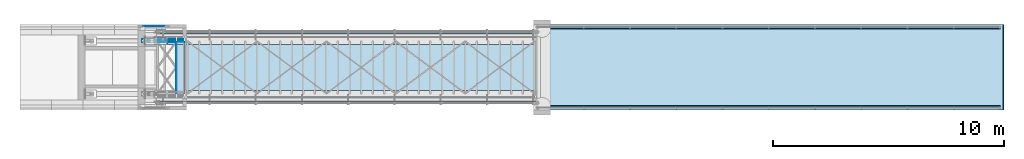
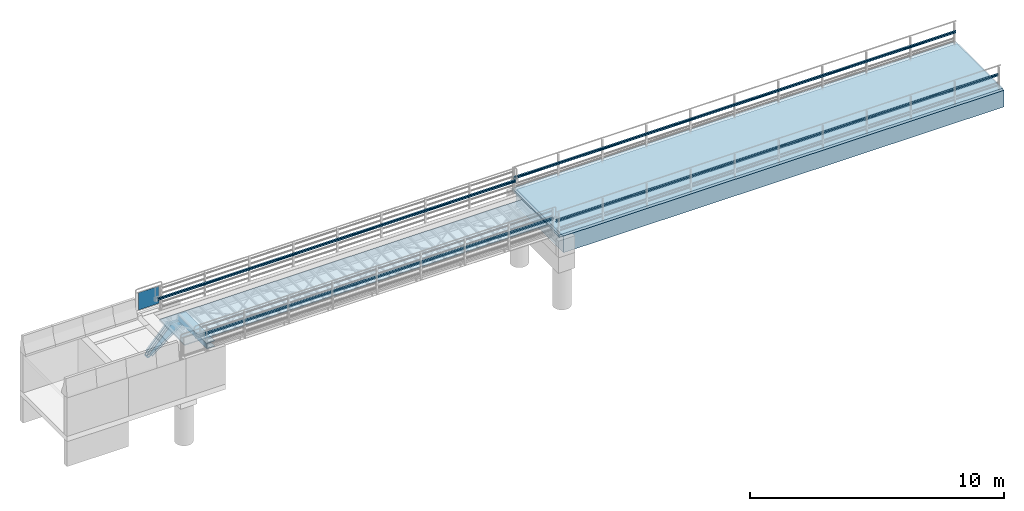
# One storey, part 26 of 31: 13 plates, 2 slabs.
"""IFC2X3 building model written with IfcOpenShell, lengths in millimetres."""

from ifc_helpers import new_model, si_unit, frame, origin_with_axes, place, context, subcontext, project, spatial, faceted_brep, material, type_object, element, save


model = new_model("IFC2X3")

# Units and contexts
model_context = context("Model", 3, precision=1e-05, world=origin_with_axes())
body_context = subcontext(model_context, "Body", "Model", "MODEL_VIEW")
ifc_project = project(units=[si_unit("LENGTHUNIT", "METRE", prefix="MILLI"), si_unit("AREAUNIT", "SQUARE_METRE"), si_unit("VOLUMEUNIT", "CUBIC_METRE"), si_unit("MASSUNIT", "GRAM", prefix="KILO"), si_unit("TIMEUNIT", "SECOND"), si_unit("PLANEANGLEUNIT", "RADIAN"), si_unit("SOLIDANGLEUNIT", "STERADIAN"), si_unit("THERMODYNAMICTEMPERATUREUNIT", "DEGREE_CELSIUS"), si_unit("LUMINOUSINTENSITYUNIT", "LUMEN")], contexts=[model_context])

# Site, building, storey
site_placement = place(None, origin_with_axes())
site = spatial("IfcSite", under=ifc_project, at=site_placement, Name="Undefined", CompositionType="ELEMENT")
building_placement = place(site_placement, origin_with_axes())
building = spatial("IfcBuilding", under=site, at=building_placement, Name="Undefined", CompositionType="ELEMENT")
storey_placement = place(building_placement, origin_with_axes())
storey = spatial("IfcBuildingStorey", under=building, at=storey_placement, Name="Undefined", CompositionType="ELEMENT", Elevation=0.0)

# Plates
ifc_material_1 = material(Name="STEEL/S355J2+N")
plate_type_1 = type_object("IfcPlateType", Name="PL20*300", PredefinedType="NOTDEFINED")
plate_1_placement = place(storey_placement, frame((3575.39569109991, 2149.99966072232, -427.071099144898), z_axis=(2.50193930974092e-05, 0.999999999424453, -2.29155708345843e-05), x_axis=(-0.675422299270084, 0.0, -0.737431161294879)))
element("IfcPlate", 1, at=plate_1_placement, inside=storey, type_object=plate_type_1, material=ifc_material_1, Name="PLATE", context=body_context, shape_type="Brep", body=[
    faceted_brep([(1469.98602404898, -10.0000000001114, 299.999999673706), (1469.99999999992, -10.0000000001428, -1.17324816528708e-10), (1469.99999999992, 9.99999999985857, -1.18234311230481e-10), (1469.98602404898, 9.9999999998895, 299.999999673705), (26.9203526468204, 10.0000000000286, 300.005569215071), (8.48209986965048, -9.9999999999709, 300.005640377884), (8.49148352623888, -10.0000000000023, -4.54747350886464e-13), (26.9297363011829, 9.99999999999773, -2.72848410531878e-12)], [[[0, 1, 2, 3]], [[0, 3, 4, 5]], [[1, 0, 5, 6]], [[2, 1, 6, 7]], [[3, 2, 7, 4]], [[6, 5, 4, 7]]]),
])
plate_2_placement = place(storey_placement, frame((4313.94299101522, 2150.0, -432.043075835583), z_axis=(0.0, 1.0, 0.0), x_axis=(-0.795692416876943, 0.0, -0.605700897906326)))
element("IfcPlate", 2, at=plate_2_placement, inside=storey, type_object=plate_type_1, material=ifc_material_1, Name="PLATE", context=body_context, shape_type="Brep", body=[
    faceted_brep([(2024.92011222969, -10.0000000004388, 300.0), (2024.9201122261, -10.0000000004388, 0.0), (2024.92011222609, 9.99999999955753, 0.0), (2024.92011222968, 9.99999999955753, 300.0), (26.2734451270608, 9.99999999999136, 300.0), (5.00222085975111e-11, -9.99999999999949, 299.999999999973), (-9.09494701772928e-13, -9.99999999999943, 0.0), (26.2734451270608, 9.99999999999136, 0.0)], [[[0, 1, 2, 3]], [[0, 3, 4, 5]], [[1, 0, 5, 6]], [[2, 1, 6, 7]], [[3, 2, 7, 4]], [[6, 5, 4, 7]]]),
])
plate_type_2 = type_object("IfcPlateType", Name="PL1*830", PredefinedType="NOTDEFINED")
plate_3_placement = place(storey_placement, frame((2537.745, 2924.5, 155.0), z_axis=(0.0, 0.0, 1.0), x_axis=(1.0, 0.0, 0.0)))
element("IfcPlate", 3, at=plate_3_placement, inside=storey, type_object=plate_type_2, material=ifc_material_1, Name="LKBRØYTETETTPANEL", context=body_context, shape_type="Brep", body=[
    faceted_brep([(0.0, -0.5, 0.0), (0.0, -0.5, 830.0), (0.0, 0.5, 830.0), (0.0, 0.5, 0.0), (920.0, -0.5, 830.0), (920.0, 0.5, 830.0), (920.0, -0.5, 0.0), (920.0, 0.5, 0.0)], [[[0, 1, 2, 3]], [[1, 4, 5, 2]], [[4, 6, 7, 5]], [[6, 0, 3, 7]], [[5, 7, 3, 2]], [[6, 4, 1, 0]]]),
])
plate_type_3 = type_object("IfcPlateType", Name="PL18*466", PredefinedType="NOTDEFINED")
plate_4_placement = place(storey_placement, frame((2577.43360778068, 2243.0, -1766.484967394), z_axis=(-0.605700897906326, 0.0, 0.795692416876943), x_axis=(0.795692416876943, 0.0, 0.605700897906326)))
element("IfcPlate", 4, at=plate_4_placement, inside=storey, type_object=plate_type_3, material=ifc_material_1, Name="PLATE", context=body_context, shape_type="Brep", body=[
    faceted_brep([(163.504970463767, -9.0, 83.3247599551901), (163.504970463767, 9.0, 83.3247599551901), (154.611295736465, 9.0, 66.7931044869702), (154.611295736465, -9.0, 66.7931044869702), (141.044345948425, 9.0, 53.8188624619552), (141.044345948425, -9.0, 53.8188624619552), (124.132148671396, 9.0, 45.6720430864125), (124.132148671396, -9.0, 45.6720430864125), (105.530187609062, 9.0, 43.150113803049), (105.530187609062, -9.0, 43.150113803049), (87.0593523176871, 9.0, 46.4999386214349), (87.0593523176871, -9.0, 46.4999386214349), (70.5276968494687, 9.0, 55.3936133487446), (70.5276968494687, -9.0, 55.3936133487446), (57.5534548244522, 9.0, 68.960563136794), (57.5534548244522, -9.0, 68.960563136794), (49.4066354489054, 9.0, 85.8727604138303), (49.4066354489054, -9.0, 85.8727604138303), (46.8847061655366, 9.0, 104.47472147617), (46.8847061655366, -9.0, 104.47472147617), (50.2345309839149, 9.0, 122.945556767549), (50.2345309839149, -9.0, 122.945556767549), (59.1282057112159, 9.0, 139.477212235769), (59.1282057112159, -9.0, 139.477212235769), (72.6951554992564, 9.0, 152.451454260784), (72.6951554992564, -9.0, 152.451454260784), (89.6073527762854, 9.0, 160.598273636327), (89.6073527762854, -9.0, 160.598273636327), (108.20931383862, 9.0, 163.12020291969), (108.20931383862, -9.0, 163.12020291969), (126.680149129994, 9.0, 159.770378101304), (126.680149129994, -9.0, 159.770378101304), (143.211804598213, 9.0, 150.876703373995), (143.211804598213, -9.0, 150.876703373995), (156.186046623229, 9.0, 137.309753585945), (156.186046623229, -9.0, 137.309753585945), (164.332865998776, 9.0, 120.397556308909), (164.332865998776, -9.0, 120.397556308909), (166.854795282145, 9.0, 101.795595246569), (166.854795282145, -9.0, 101.795595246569), (-0.0275781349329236, -9.0, 48.08983912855), (19.9856895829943, -9.0, 22.5915622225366), (47.7342715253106, -9.0, 5.83718338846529), (79.6187552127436, -9.0, -1.00044417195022e-11), (2189.99999999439, -9.0, -2.72848410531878e-10), (1577.31683933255, -9.0, 466.389691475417), (61.8801634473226, -9.0, 192.804490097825), (30.275079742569, -9.0, 180.621837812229), (5.41136707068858, -9.0, 157.619791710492), (-9.18923430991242, -9.0, 127.056402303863), (-11.4586693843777, -9.0, 93.2607221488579), (-9.70950687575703, -9.0, 79.0245003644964), (-9.70950687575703, 9.0, 79.0245003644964), (-0.0275781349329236, 9.0, 48.08983912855), (19.9856895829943, 9.0, 22.5915622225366), (47.7342715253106, 9.0, 5.83718338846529), (79.6187552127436, 9.0, -1.00044417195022e-11), (2189.99999999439, 9.0, -2.72848410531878e-10), (1577.31683933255, 9.0, 466.389691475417), (61.8801634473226, 9.0, 192.804490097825), (30.275079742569, 9.0, 180.621837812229), (5.41136707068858, 9.0, 157.619791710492), (-9.18923430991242, 9.0, 127.056402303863), (-11.4586693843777, 9.0, 93.2607221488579)], [[[0, 1, 2, 3]], [[3, 2, 4, 5]], [[5, 4, 6, 7]], [[7, 6, 8, 9]], [[9, 8, 10, 11]], [[11, 10, 12, 13]], [[13, 12, 14, 15]], [[15, 14, 16, 17]], [[17, 16, 18, 19]], [[19, 18, 20, 21]], [[21, 20, 22, 23]], [[23, 22, 24, 25]], [[25, 24, 26, 27]], [[27, 26, 28, 29]], [[29, 28, 30, 31]], [[31, 30, 32, 33]], [[33, 32, 34, 35]], [[35, 34, 36, 37]], [[37, 36, 38, 39]], [[39, 38, 1, 0]], [[40, 41, 42, 43, 44, 45, 46, 47, 48, 49, 50, 51], [3, 5, 7, 9, 11, 13, 15, 17, 19, 21, 23, 25, 27, 29, 31, 33, 35, 37, 39, 0]], [[40, 51, 52, 53]], [[41, 40, 53, 54]], [[42, 41, 54, 55]], [[43, 42, 55, 56]], [[44, 43, 56, 57]], [[45, 44, 57, 58]], [[46, 45, 58, 59]], [[47, 46, 59, 60]], [[48, 47, 60, 61]], [[49, 48, 61, 62]], [[50, 49, 62, 63]], [[51, 50, 63, 52]], [[62, 61, 60, 59, 58, 57, 56, 55, 54, 53, 52, 63], [34, 32, 30, 28, 26, 24, 22, 20, 18, 16, 14, 12, 10, 8, 6, 4, 2, 1, 38, 36]]]),
])
plate_5_placement = place(storey_placement, frame((2577.43360778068, 2357.0, -1766.484967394), z_axis=(-0.605700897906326, 0.0, 0.795692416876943), x_axis=(0.795692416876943, 0.0, 0.605700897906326)))
element("IfcPlate", 5, at=plate_5_placement, inside=storey, type_object=plate_type_3, material=ifc_material_1, Name="PLATE", context=body_context, shape_type="Brep", body=[
    faceted_brep([(163.504970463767, -9.0, 83.3247599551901), (163.504970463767, 9.0, 83.3247599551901), (154.611295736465, 9.0, 66.7931044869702), (154.611295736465, -9.0, 66.7931044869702), (141.044345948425, 9.0, 53.8188624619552), (141.044345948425, -9.0, 53.8188624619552), (124.132148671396, 9.0, 45.6720430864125), (124.132148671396, -9.0, 45.6720430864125), (105.530187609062, 9.0, 43.150113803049), (105.530187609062, -9.0, 43.150113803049), (87.0593523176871, 9.0, 46.4999386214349), (87.0593523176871, -9.0, 46.4999386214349), (70.5276968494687, 9.0, 55.3936133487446), (70.5276968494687, -9.0, 55.3936133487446), (57.5534548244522, 9.0, 68.960563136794), (57.5534548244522, -9.0, 68.960563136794), (49.4066354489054, 9.0, 85.8727604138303), (49.4066354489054, -9.0, 85.8727604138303), (46.8847061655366, 9.0, 104.47472147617), (46.8847061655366, -9.0, 104.47472147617), (50.2345309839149, 9.0, 122.945556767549), (50.2345309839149, -9.0, 122.945556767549), (59.1282057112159, 9.0, 139.477212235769), (59.1282057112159, -9.0, 139.477212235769), (72.6951554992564, 9.0, 152.451454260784), (72.6951554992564, -9.0, 152.451454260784), (89.6073527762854, 9.0, 160.598273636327), (89.6073527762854, -9.0, 160.598273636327), (108.20931383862, 9.0, 163.12020291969), (108.20931383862, -9.0, 163.12020291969), (126.680149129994, 9.0, 159.770378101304), (126.680149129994, -9.0, 159.770378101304), (143.211804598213, 9.0, 150.876703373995), (143.211804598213, -9.0, 150.876703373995), (156.186046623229, 9.0, 137.309753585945), (156.186046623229, -9.0, 137.309753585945), (164.332865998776, 9.0, 120.397556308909), (164.332865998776, -9.0, 120.397556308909), (166.854795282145, 9.0, 101.795595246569), (166.854795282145, -9.0, 101.795595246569), (-0.0275781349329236, -9.0, 48.08983912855), (19.9856895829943, -9.0, 22.5915622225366), (47.7342715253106, -9.0, 5.83718338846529), (79.6187552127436, -9.0, -1.00044417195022e-11), (2189.99999999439, -9.0, -2.72848410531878e-10), (1577.31683933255, -9.0, 466.389691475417), (61.8801634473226, -9.0, 192.804490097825), (30.275079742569, -9.0, 180.621837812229), (5.41136707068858, -9.0, 157.619791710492), (-9.18923430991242, -9.0, 127.056402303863), (-11.4586693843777, -9.0, 93.2607221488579), (-9.70950687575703, -9.0, 79.0245003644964), (-9.70950687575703, 9.0, 79.0245003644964), (-0.0275781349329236, 9.0, 48.08983912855), (19.9856895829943, 9.0, 22.5915622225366), (47.7342715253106, 9.0, 5.83718338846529), (79.6187552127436, 9.0, -1.00044417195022e-11), (2189.99999999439, 9.0, -2.72848410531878e-10), (1577.31683933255, 9.0, 466.389691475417), (61.8801634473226, 9.0, 192.804490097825), (30.275079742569, 9.0, 180.621837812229), (5.41136707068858, 9.0, 157.619791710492), (-9.18923430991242, 9.0, 127.056402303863), (-11.4586693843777, 9.0, 93.2607221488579)], [[[0, 1, 2, 3]], [[3, 2, 4, 5]], [[5, 4, 6, 7]], [[7, 6, 8, 9]], [[9, 8, 10, 11]], [[11, 10, 12, 13]], [[13, 12, 14, 15]], [[15, 14, 16, 17]], [[17, 16, 18, 19]], [[19, 18, 20, 21]], [[21, 20, 22, 23]], [[23, 22, 24, 25]], [[25, 24, 26, 27]], [[27, 26, 28, 29]], [[29, 28, 30, 31]], [[31, 30, 32, 33]], [[33, 32, 34, 35]], [[35, 34, 36, 37]], [[37, 36, 38, 39]], [[39, 38, 1, 0]], [[40, 41, 42, 43, 44, 45, 46, 47, 48, 49, 50, 51], [3, 5, 7, 9, 11, 13, 15, 17, 19, 21, 23, 25, 27, 29, 31, 33, 35, 37, 39, 0]], [[40, 51, 52, 53]], [[41, 40, 53, 54]], [[42, 41, 54, 55]], [[43, 42, 55, 56]], [[44, 43, 56, 57]], [[45, 44, 57, 58]], [[46, 45, 58, 59]], [[47, 46, 59, 60]], [[48, 47, 60, 61]], [[49, 48, 61, 62]], [[50, 49, 62, 63]], [[51, 50, 63, 52]], [[62, 61, 60, 59, 58, 57, 56, 55, 54, 53, 52, 63], [34, 32, 30, 28, 26, 24, 22, 20, 18, 16, 14, 12, 10, 8, 6, 4, 2, 1, 38, 36]]]),
])
plate_type_4 = type_object("IfcPlateType", Name="PL20100*131", PredefinedType="NOTDEFINED")
plate_6_placement = place(storey_placement, frame((29550.0, 2849.9965929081, 525.516093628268), z_axis=(0.0, -0.529589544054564, -0.848254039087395), x_axis=(0.0, -0.848254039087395, 0.529589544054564)))
element("IfcPlate", 6, at=plate_6_placement, inside=storey, type_object=plate_type_4, material=ifc_material_1, Name="BB-FØRINGSSKINNE", context=body_context, shape_type="Brep", body=[
    faceted_brep([(0.0, -10050.0, -2.27373675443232e-13), (-0.0621845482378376, -10050.0, 2.93198452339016), (-0.0621845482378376, 10050.0, 2.93198452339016), (0.0, 10050.0, -2.27373675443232e-13), (46.388300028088, -10050.0, 2.93162020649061), (46.388300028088, 10050.0, 2.93162020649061), (51.3752520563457, -10050.0, 0.681159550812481), (51.3752520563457, 10050.0, 0.681159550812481), (55.1048153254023, -10050.0, -3.29743898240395), (55.1048153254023, 10050.0, -3.29743898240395), (57.0344550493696, -10050.0, -8.36441512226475), (57.0344550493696, 10050.0, -8.36441512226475), (56.8741730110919, -10050.0, -13.8638097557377), (56.8741730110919, 10050.0, -13.8638097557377), (36.9574907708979, -10050.0, -53.5307787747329), (36.9574907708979, 10050.0, -53.5307787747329), (47.5492816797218, -10050.0, -70.4958595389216), (47.5492816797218, 10050.0, -70.4958595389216), (91.9330008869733, -10050.0, -70.0182271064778), (91.9330008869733, 10050.0, -70.0182271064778), (96.9061744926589, -10050.0, -72.2655011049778), (96.9061744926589, 10050.0, -72.2655011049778), (100.649516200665, -10050.0, -76.2472863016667), (100.649516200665, 10050.0, -76.2472863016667), (102.59077956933, -10050.0, -81.3895279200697), (102.59077956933, 10050.0, -81.3895279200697), (102.39661289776, -10050.0, -86.8157663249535), (102.39661289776, 10050.0, -86.8157663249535), (82.024194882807, -10050.0, -128.547391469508), (82.024194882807, 10050.0, -128.547391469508), (79.491390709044, -10050.0, -127.322931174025), (79.491390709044, 10050.0, -127.322931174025), (99.4978454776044, -10050.0, -86.1380883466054), (99.4978454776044, 10050.0, -86.1380883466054), (99.6246827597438, -10050.0, -81.8502552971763), (99.6246827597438, 10050.0, -81.8502552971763), (98.1047540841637, -10050.0, -77.8360549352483), (98.1047540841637, 10050.0, -77.8360549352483), (95.1655387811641, -10050.0, -74.7079562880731), (95.1655387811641, 10050.0, -74.7079562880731), (91.2574321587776, -10050.0, -72.9392555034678), (91.2574321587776, 10050.0, -72.9392555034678), (45.8412710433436, -10050.0, -73.4248695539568), (45.8412710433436, 10050.0, -73.4248695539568), (33.5759771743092, -10050.0, -53.7793060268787), (33.5759771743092, 10050.0, -53.7793060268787), (53.9531446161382, -10050.0, -13.1882410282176), (53.9531446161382, 10050.0, -13.1882410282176), (54.0725767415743, -10050.0, -8.86966445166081), (54.0725767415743, 10050.0, -8.86966445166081), (52.5600532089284, -10050.0, -4.88620761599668), (52.5600532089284, 10050.0, -4.88620761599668), (49.6208379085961, -10050.0, -1.75810898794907), (49.6208379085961, 10050.0, -1.75810898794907), (45.6957661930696, -10050.0, -9.09494701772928e-13), (45.6957661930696, 10050.0, -9.09494701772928e-13)], [[[0, 1, 2, 3]], [[1, 4, 5, 2]], [[4, 6, 7, 5]], [[6, 8, 9, 7]], [[8, 10, 11, 9]], [[10, 12, 13, 11]], [[12, 14, 15, 13]], [[14, 16, 17, 15]], [[16, 18, 19, 17]], [[18, 20, 21, 19]], [[20, 22, 23, 21]], [[22, 24, 25, 23]], [[24, 26, 27, 25]], [[26, 28, 29, 27]], [[28, 30, 31, 29]], [[30, 32, 33, 31]], [[32, 34, 35, 33]], [[34, 36, 37, 35]], [[36, 38, 39, 37]], [[38, 40, 41, 39]], [[40, 42, 43, 41]], [[42, 44, 45, 43]], [[44, 46, 47, 45]], [[46, 48, 49, 47]], [[48, 50, 51, 49]], [[50, 52, 53, 51]], [[52, 54, 55, 53]], [[54, 0, 3, 55]], [[5, 7, 9, 11, 13, 15, 17, 19, 21, 23, 25, 27, 29, 31, 33, 35, 37, 39, 41, 43, 45, 47, 49, 51, 53, 55, 3, 2]], [[54, 52, 50, 48, 46, 44, 42, 40, 38, 36, 34, 32, 30, 28, 26, 24, 22, 20, 18, 16, 14, 12, 10, 8, 6, 4, 1, 0]]]),
])
plate_7_placement = place(storey_placement, frame((29550.0, -549.996592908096, 525.516093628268), z_axis=(0.0, 0.529589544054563, -0.848254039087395), x_axis=(0.0, 0.848254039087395, 0.529589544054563)))
element("IfcPlate", 7, at=plate_7_placement, inside=storey, type_object=plate_type_4, material=ifc_material_1, Name="BB-FØRINGSSKINNE", context=body_context, shape_type="Brep", body=[
    faceted_brep([(0.0, -10050.0, -2.27373675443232e-13), (-0.0621845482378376, -10050.0, 2.93198452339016), (-0.0621845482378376, 10050.0, 2.93198452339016), (0.0, 10050.0, -2.27373675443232e-13), (46.388300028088, -10050.0, 2.93162020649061), (46.388300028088, 10050.0, 2.93162020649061), (51.3752520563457, -10050.0, 0.681159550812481), (51.3752520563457, 10050.0, 0.681159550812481), (55.1048153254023, -10050.0, -3.29743898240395), (55.1048153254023, 10050.0, -3.29743898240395), (57.0344550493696, -10050.0, -8.36441512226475), (57.0344550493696, 10050.0, -8.36441512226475), (56.8741730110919, -10050.0, -13.8638097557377), (56.8741730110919, 10050.0, -13.8638097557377), (36.9574907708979, -10050.0, -53.5307787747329), (36.9574907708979, 10050.0, -53.5307787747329), (47.5492816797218, -10050.0, -70.4958595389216), (47.5492816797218, 10050.0, -70.4958595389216), (91.9330008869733, -10050.0, -70.0182271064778), (91.9330008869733, 10050.0, -70.0182271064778), (96.9061744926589, -10050.0, -72.2655011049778), (96.9061744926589, 10050.0, -72.2655011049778), (100.649516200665, -10050.0, -76.2472863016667), (100.649516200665, 10050.0, -76.2472863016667), (102.59077956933, -10050.0, -81.3895279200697), (102.59077956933, 10050.0, -81.3895279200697), (102.39661289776, -10050.0, -86.8157663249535), (102.39661289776, 10050.0, -86.8157663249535), (82.024194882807, -10050.0, -128.547391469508), (82.024194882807, 10050.0, -128.547391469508), (79.491390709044, -10050.0, -127.322931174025), (79.491390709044, 10050.0, -127.322931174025), (99.4978454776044, -10050.0, -86.1380883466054), (99.4978454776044, 10050.0, -86.1380883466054), (99.6246827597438, -10050.0, -81.8502552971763), (99.6246827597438, 10050.0, -81.8502552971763), (98.1047540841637, -10050.0, -77.8360549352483), (98.1047540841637, 10050.0, -77.8360549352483), (95.1655387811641, -10050.0, -74.7079562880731), (95.1655387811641, 10050.0, -74.7079562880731), (91.2574321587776, -10050.0, -72.9392555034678), (91.2574321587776, 10050.0, -72.9392555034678), (45.8412710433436, -10050.0, -73.4248695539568), (45.8412710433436, 10050.0, -73.4248695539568), (33.5759771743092, -10050.0, -53.7793060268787), (33.5759771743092, 10050.0, -53.7793060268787), (53.9531446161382, -10050.0, -13.1882410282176), (53.9531446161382, 10050.0, -13.1882410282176), (54.0725767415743, -10050.0, -8.86966445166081), (54.0725767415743, 10050.0, -8.86966445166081), (52.5600532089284, -10050.0, -4.88620761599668), (52.5600532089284, 10050.0, -4.88620761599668), (49.6208379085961, -10050.0, -1.75810898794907), (49.6208379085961, 10050.0, -1.75810898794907), (45.6957661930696, -10050.0, -9.09494701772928e-13), (45.6957661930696, 10050.0, -9.09494701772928e-13)], [[[0, 1, 2, 3]], [[1, 4, 5, 2]], [[4, 6, 7, 5]], [[6, 8, 9, 7]], [[8, 10, 11, 9]], [[10, 12, 13, 11]], [[12, 14, 15, 13]], [[14, 16, 17, 15]], [[16, 18, 19, 17]], [[18, 20, 21, 19]], [[20, 22, 23, 21]], [[22, 24, 25, 23]], [[24, 26, 27, 25]], [[26, 28, 29, 27]], [[28, 30, 31, 29]], [[30, 32, 33, 31]], [[32, 34, 35, 33]], [[34, 36, 37, 35]], [[36, 38, 39, 37]], [[38, 40, 41, 39]], [[40, 42, 43, 41]], [[42, 44, 45, 43]], [[44, 46, 47, 45]], [[46, 48, 49, 47]], [[48, 50, 51, 49]], [[50, 52, 53, 51]], [[52, 54, 55, 53]], [[54, 0, 3, 55]], [[5, 7, 9, 11, 13, 15, 17, 19, 21, 23, 25, 27, 29, 31, 33, 35, 37, 39, 41, 43, 45, 47, 49, 51, 53, 55, 3, 2]], [[54, 52, 50, 48, 46, 44, 42, 40, 38, 36, 34, 32, 30, 28, 26, 24, 22, 20, 18, 16, 14, 12, 10, 8, 6, 4, 1, 0]]]),
])
plate_type_5 = type_object("IfcPlateType", Name="PL16270*131", PredefinedType="NOTDEFINED")
plate_8_placement = place(storey_placement, frame((11365.0, -349.996592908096, 525.516093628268), z_axis=(0.0, 0.529589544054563, -0.848254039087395), x_axis=(0.0, 0.848254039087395, 0.529589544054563)))
element("IfcPlate", 8, at=plate_8_placement, inside=storey, type_object=plate_type_5, material=ifc_material_1, Name="FØRINGSSKINNE", context=body_context, shape_type="Brep", body=[
    faceted_brep([(3.5527136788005e-14, -8135.0, 1.13686837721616e-13), (-0.0621845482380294, -8135.0, 2.93198452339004), (-0.0621845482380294, 8135.0, 2.93198452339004), (3.5527136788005e-14, 8135.0, 1.13686837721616e-13), (46.3883000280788, -8135.0, 2.93162020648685), (46.3883000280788, 8135.0, 2.93162020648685), (51.3752520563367, -8135.0, 0.681159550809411), (51.3752520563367, 8135.0, 0.681159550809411), (55.1048153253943, -8135.0, -3.29743898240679), (55.1048153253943, 8135.0, -3.29743898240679), (57.034455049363, -8135.0, -8.36441512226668), (57.034455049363, 8135.0, -8.36441512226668), (56.8741730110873, -8135.0, -13.8638097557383), (56.8741730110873, 8135.0, -13.8638097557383), (36.9574907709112, -8135.0, -53.530778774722), (36.9574907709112, 8135.0, -53.530778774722), (47.5492816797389, -8135.0, -70.4958595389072), (47.5492816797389, 8135.0, -70.4958595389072), (91.9330008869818, -8135.0, -70.0182271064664), (91.9330008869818, 8135.0, -70.0182271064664), (96.9061744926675, -8135.0, -72.2655011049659), (96.9061744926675, 8135.0, -72.2655011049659), (100.649516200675, -8135.0, -76.2472863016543), (100.649516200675, 8135.0, -76.2472863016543), (102.59077956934, -8135.0, -81.3895279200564), (102.59077956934, 8135.0, -81.3895279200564), (102.396612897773, -8135.0, -86.8157663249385), (102.396612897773, 8135.0, -86.8157663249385), (82.0241948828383, -8135.0, -128.547391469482), (82.0241948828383, 8135.0, -128.547391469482), (79.4913907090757, -8135.0, -127.322931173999), (79.4913907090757, 8135.0, -127.322931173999), (99.4978454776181, -8135.0, -86.1380883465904), (99.4978454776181, 8135.0, -86.1380883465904), (99.624682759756, -8135.0, -81.850255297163), (99.624682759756, 8135.0, -81.850255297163), (98.104754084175, -8135.0, -77.8360549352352), (98.104754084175, 8135.0, -77.8360549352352), (95.1655387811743, -8135.0, -74.7079562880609), (95.1655387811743, 8135.0, -74.7079562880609), (91.2574321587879, -8135.0, -72.9392555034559), (91.2574321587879, 8135.0, -72.9392555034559), (45.8412710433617, -8135.0, -73.424869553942), (45.8412710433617, 8135.0, -73.424869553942), (33.5759771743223, -8135.0, -53.7793060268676), (33.5759771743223, 8135.0, -53.7793060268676), (53.9531446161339, -8135.0, -13.1882410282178), (53.9531446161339, 8135.0, -13.1882410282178), (54.0725767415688, -8135.0, -8.86966445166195), (54.0725767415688, 8135.0, -8.86966445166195), (52.5600532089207, -8135.0, -4.88620761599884), (52.5600532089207, 8135.0, -4.88620761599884), (49.6208379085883, -8135.0, -1.75810898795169), (49.6208379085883, 8135.0, -1.75810898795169), (45.6957661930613, -8135.0, -3.86535248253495e-12), (45.6957661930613, 8135.0, -3.86535248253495e-12)], [[[0, 1, 2, 3]], [[1, 4, 5, 2]], [[4, 6, 7, 5]], [[6, 8, 9, 7]], [[8, 10, 11, 9]], [[10, 12, 13, 11]], [[12, 14, 15, 13]], [[14, 16, 17, 15]], [[16, 18, 19, 17]], [[18, 20, 21, 19]], [[20, 22, 23, 21]], [[22, 24, 25, 23]], [[24, 26, 27, 25]], [[26, 28, 29, 27]], [[28, 30, 31, 29]], [[30, 32, 33, 31]], [[32, 34, 35, 33]], [[34, 36, 37, 35]], [[36, 38, 39, 37]], [[38, 40, 41, 39]], [[40, 42, 43, 41]], [[42, 44, 45, 43]], [[44, 46, 47, 45]], [[46, 48, 49, 47]], [[48, 50, 51, 49]], [[50, 52, 53, 51]], [[52, 54, 55, 53]], [[54, 0, 3, 55]], [[5, 7, 9, 11, 13, 15, 17, 19, 21, 23, 25, 27, 29, 31, 33, 35, 37, 39, 41, 43, 45, 47, 49, 51, 53, 55, 3, 2]], [[54, 52, 50, 48, 46, 44, 42, 40, 38, 36, 34, 32, 30, 28, 26, 24, 22, 20, 18, 16, 14, 12, 10, 8, 6, 4, 1, 0]]]),
])
plate_9_placement = place(storey_placement, frame((11365.0, 2649.9965929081, 525.516093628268), z_axis=(0.0, -0.529589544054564, -0.848254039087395), x_axis=(0.0, -0.848254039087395, 0.529589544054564)))
element("IfcPlate", 9, at=plate_9_placement, inside=storey, type_object=plate_type_5, material=ifc_material_1, Name="FØRINGSSKINNE", context=body_context, shape_type="Brep", body=[
    faceted_brep([(3.5527136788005e-14, -8135.0, 1.13686837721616e-13), (-0.0621845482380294, -8135.0, 2.93198452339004), (-0.0621845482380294, 8135.0, 2.93198452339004), (3.5527136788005e-14, 8135.0, 1.13686837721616e-13), (46.3883000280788, -8135.0, 2.93162020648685), (46.3883000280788, 8135.0, 2.93162020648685), (51.3752520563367, -8135.0, 0.681159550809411), (51.3752520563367, 8135.0, 0.681159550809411), (55.1048153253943, -8135.0, -3.29743898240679), (55.1048153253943, 8135.0, -3.29743898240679), (57.034455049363, -8135.0, -8.36441512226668), (57.034455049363, 8135.0, -8.36441512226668), (56.8741730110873, -8135.0, -13.8638097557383), (56.8741730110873, 8135.0, -13.8638097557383), (36.9574907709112, -8135.0, -53.530778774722), (36.9574907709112, 8135.0, -53.530778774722), (47.5492816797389, -8135.0, -70.4958595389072), (47.5492816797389, 8135.0, -70.4958595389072), (91.9330008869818, -8135.0, -70.0182271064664), (91.9330008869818, 8135.0, -70.0182271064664), (96.9061744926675, -8135.0, -72.2655011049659), (96.9061744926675, 8135.0, -72.2655011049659), (100.649516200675, -8135.0, -76.2472863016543), (100.649516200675, 8135.0, -76.2472863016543), (102.59077956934, -8135.0, -81.3895279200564), (102.59077956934, 8135.0, -81.3895279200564), (102.396612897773, -8135.0, -86.8157663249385), (102.396612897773, 8135.0, -86.8157663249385), (82.0241948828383, -8135.0, -128.547391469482), (82.0241948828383, 8135.0, -128.547391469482), (79.4913907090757, -8135.0, -127.322931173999), (79.4913907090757, 8135.0, -127.322931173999), (99.4978454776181, -8135.0, -86.1380883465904), (99.4978454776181, 8135.0, -86.1380883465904), (99.624682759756, -8135.0, -81.850255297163), (99.624682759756, 8135.0, -81.850255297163), (98.104754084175, -8135.0, -77.8360549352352), (98.104754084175, 8135.0, -77.8360549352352), (95.1655387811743, -8135.0, -74.7079562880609), (95.1655387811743, 8135.0, -74.7079562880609), (91.2574321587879, -8135.0, -72.9392555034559), (91.2574321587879, 8135.0, -72.9392555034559), (45.8412710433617, -8135.0, -73.424869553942), (45.8412710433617, 8135.0, -73.424869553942), (33.5759771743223, -8135.0, -53.7793060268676), (33.5759771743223, 8135.0, -53.7793060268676), (53.9531446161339, -8135.0, -13.1882410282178), (53.9531446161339, 8135.0, -13.1882410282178), (54.0725767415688, -8135.0, -8.86966445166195), (54.0725767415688, 8135.0, -8.86966445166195), (52.5600532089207, -8135.0, -4.88620761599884), (52.5600532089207, 8135.0, -4.88620761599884), (49.6208379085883, -8135.0, -1.75810898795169), (49.6208379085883, 8135.0, -1.75810898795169), (45.6957661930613, -8135.0, -3.86535248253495e-12), (45.6957661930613, 8135.0, -3.86535248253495e-12)], [[[0, 1, 2, 3]], [[1, 4, 5, 2]], [[4, 6, 7, 5]], [[6, 8, 9, 7]], [[8, 10, 11, 9]], [[10, 12, 13, 11]], [[12, 14, 15, 13]], [[14, 16, 17, 15]], [[16, 18, 19, 17]], [[18, 20, 21, 19]], [[20, 22, 23, 21]], [[22, 24, 25, 23]], [[24, 26, 27, 25]], [[26, 28, 29, 27]], [[28, 30, 31, 29]], [[30, 32, 33, 31]], [[32, 34, 35, 33]], [[34, 36, 37, 35]], [[36, 38, 39, 37]], [[38, 40, 41, 39]], [[40, 42, 43, 41]], [[42, 44, 45, 43]], [[44, 46, 47, 45]], [[46, 48, 49, 47]], [[48, 50, 51, 49]], [[50, 52, 53, 51]], [[52, 54, 55, 53]], [[54, 0, 3, 55]], [[5, 7, 9, 11, 13, 15, 17, 19, 21, 23, 25, 27, 29, 31, 33, 35, 37, 39, 41, 43, 45, 47, 49, 51, 53, 55, 3, 2]], [[54, 52, 50, 48, 46, 44, 42, 40, 38, 36, 34, 32, 30, 28, 26, 24, 22, 20, 18, 16, 14, 12, 10, 8, 6, 4, 1, 0]]]),
])
plate_type_6 = type_object("IfcPlateType", Name="PL45*2000", PredefinedType="NOTDEFINED")
plate_10_placement = place(storey_placement, frame((3020.0, 2150.0, -22.5), z_axis=(1.0, 0.0, 0.0), x_axis=(0.0, -1.0, 0.0)))
element("IfcPlate", 10, at=plate_10_placement, inside=storey, type_object=plate_type_6, material=ifc_material_1, Name="RIST", context=body_context, shape_type="Brep", body=[
    faceted_brep([(0.0, -22.5, 0.0), (0.0, -22.5, 16480.0), (0.0, 22.5, 16480.0), (0.0, 22.5, 0.0), (2000.0, -22.5, 16480.0), (2000.0, 22.5, 16480.0), (2000.0, -22.5, 0.0), (2000.0, 22.5, 0.0)], [[[0, 1, 2, 3]], [[1, 4, 5, 2]], [[4, 6, 7, 5]], [[6, 0, 3, 7]], [[5, 7, 3, 2]], [[6, 4, 1, 0]]]),
])

# Slabs
ifc_material_2 = material(Name="CONCRETE/B35")
slab_type_1 = type_object("IfcSlabType", Name="800*3700", PredefinedType="NOTDEFINED")
slab_1_placement = place(storey_placement, frame((19749.9, -700.0, -520.0), z_axis=(0.0, 1.0, 0.0), x_axis=(1.0, 0.0, 0.0)))
element("IfcSlab", 11, at=slab_1_placement, inside=storey, type_object=slab_type_1, material=ifc_material_2, Name="PLASSTØPTDEKKE", PredefinedType="NOTDEFINED", context=body_context, shape_type="Brep", body=[
    faceted_brep([(0.0, -400.0, 0.0), (0.0, -400.0, 3700.0), (0.0, 400.0, 3700.0), (0.0, 400.0, 0.0), (20000.0, -400.0, 3700.0), (20000.0, 400.0, 3700.0), (20000.0, -400.0, 0.0), (20000.0, 400.0, 0.0)], [[[0, 1, 2, 3]], [[1, 4, 5, 2]], [[4, 6, 7, 5]], [[6, 0, 3, 7]], [[5, 7, 3, 2]], [[6, 4, 1, 0]]]),
])
slab_type_2 = type_object("IfcSlabType", Name="120*3700", PredefinedType="NOTDEFINED")
slab_2_placement = place(storey_placement, frame((19550.0, -700.0, -60.0), z_axis=(0.0, 1.0, 0.0), x_axis=(1.0, 0.0, 0.0)))
element("IfcSlab", 12, at=slab_2_placement, inside=storey, type_object=slab_type_2, material=ifc_material_2, Name="PLASSTØPTDEKKE", PredefinedType="NOTDEFINED", context=body_context, shape_type="Brep", body=[
    faceted_brep([(0.0, -60.0, 0.0), (0.0, -60.0, 3700.0), (0.0, 60.0, 3700.0), (0.0, 60.0, 0.0), (20150.0, -60.0, 3700.0), (20150.0, 60.0, 3700.0), (20150.0, -60.0, 0.0), (20150.0, 60.0, 0.0)], [[[0, 1, 2, 3]], [[1, 4, 5, 2]], [[4, 6, 7, 5]], [[6, 0, 3, 7]], [[5, 7, 3, 2]], [[6, 4, 1, 0]]]),
])

# Plates
plate_type_7 = type_object("IfcPlateType", Name="PL18*239", PredefinedType="NOTDEFINED")
plate_11_placement = place(storey_placement, frame((3959.0, 5.75, -183.0), z_axis=(0.0, 1.0, 0.0), x_axis=(0.0, 0.0, -1.0)))
element("IfcPlate", 13, at=plate_11_placement, inside=storey, type_object=plate_type_7, material=ifc_material_1, Name="PLATE", context=body_context, shape_type="Brep", body=[
    faceted_brep([(0.0, -9.0, 0.0), (0.0, -9.0, 2288.5), (0.0, 9.0, 2288.5), (0.0, 9.0, 0.0), (239.0, -9.0, 2288.5), (239.0, 9.0, 2288.5), (239.0, -9.0, 0.0), (239.0, 9.0, 0.0)], [[[0, 1, 2, 3]], [[1, 4, 5, 2]], [[4, 6, 7, 5]], [[6, 0, 3, 7]], [[5, 7, 3, 2]], [[6, 4, 1, 0]]]),
])
plate_type_8 = type_object("IfcPlateType", Name="PL18*370", PredefinedType="NOTDEFINED")
for number, where, z_axis, x_axis, name in (
    (14, (3950.0, 2294.25, -174.0), (1.0, 0.0, 0.0), (0.0, -1.0, 0.0), "PLATE"),
    (15, (3950.0, 2294.25, -431.0), (1.0, 0.0, 0.0), (0.0, -1.0, 0.0), "PLATE"),
):
    element("IfcPlate", number, at=place(storey_placement, frame(where, z_axis=z_axis, x_axis=x_axis)), inside=storey, type_object=plate_type_8, material=ifc_material_1, Name=name, context=body_context, shape_type="Brep", body=[
        faceted_brep([(0.0, -9.0, 0.0), (0.0, -9.0, 370.0), (0.0, 9.0, 370.0), (0.0, 9.0, 0.0), (2288.5, -9.0, 370.0), (2288.5, 9.0, 370.0), (2288.5, -9.0, 0.0), (2288.5, 9.0, 0.0)], [[[0, 1, 2, 3]], [[1, 4, 5, 2]], [[4, 6, 7, 5]], [[6, 0, 3, 7]], [[5, 7, 3, 2]], [[6, 4, 1, 0]]]),
    ])

save(model, "model.ifc")
